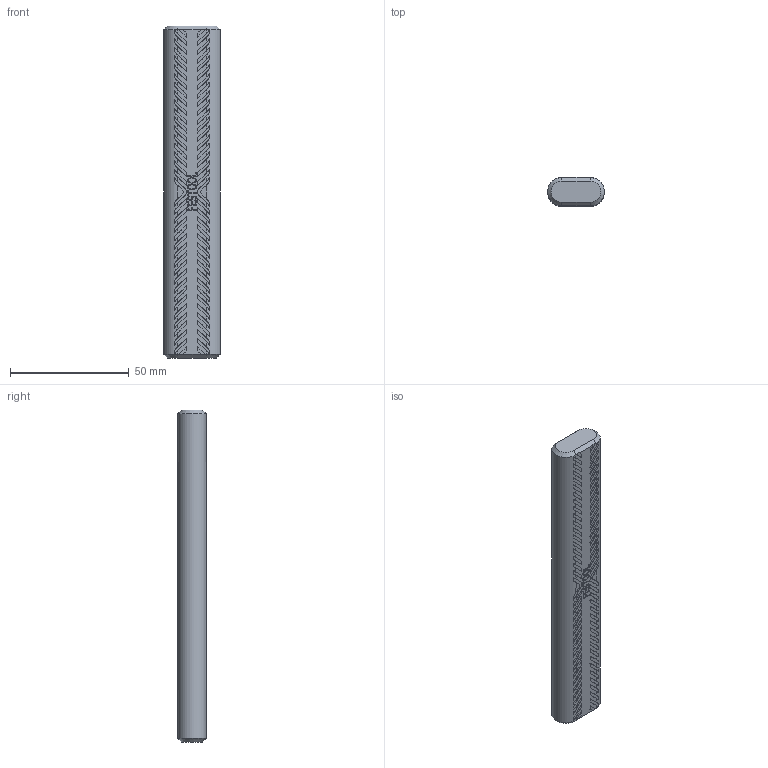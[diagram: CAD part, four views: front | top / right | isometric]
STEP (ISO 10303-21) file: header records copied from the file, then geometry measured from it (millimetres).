
FILE_DESCRIPTION(('Creo Elements/Direct Modeling STEP Export'),'2;1');
FILE_NAME('Domino_12x140.stp','2024-01-19T 8:04:09',(''),(''),'Creo Elements/Direct Modeling STEP processor for AP214 (Solid Model)','Creo Elements/Direct Modeling 20.5A 14-Oct-2022 (C) Parametric Technology GmbH','');
FILE_SCHEMA(('AUTOMOTIVE_DESIGN { 1 0 10303 214 1 1 1 1 }'));
Length unit declared in the file: millimetre
Products named in the file (1): 12x140_00701426
Bounding box: 24 x 12 x 140 mm (x, y, z)
Volume: 35622.3 mm3; surface area: 9521.6 mm2
Topology: 1 solids, 1 shells, 1147 faces, 3349 edges, 2230 vertices
Faces by surface type: plane 1141, cone 4, cylinder 2
Entity records: 35514 total; most frequent: ORIENTED_EDGE 6698, CARTESIAN_POINT 6280, DIRECTION 5339, EDGE_CURVE 3349, VECTOR 2761, LINE 2761, VERTEX_POINT 2230, AXIS2_PLACEMENT_3D 1289
